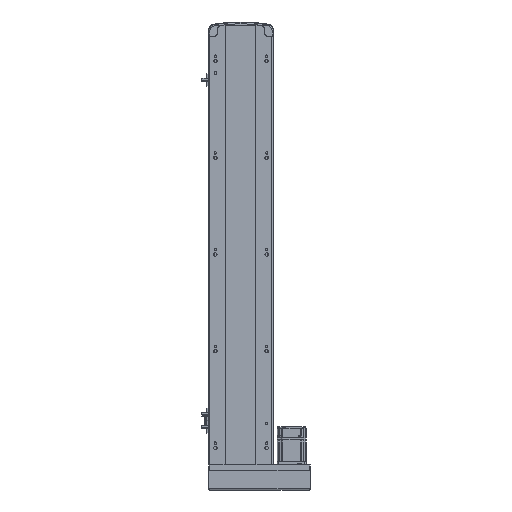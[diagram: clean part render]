
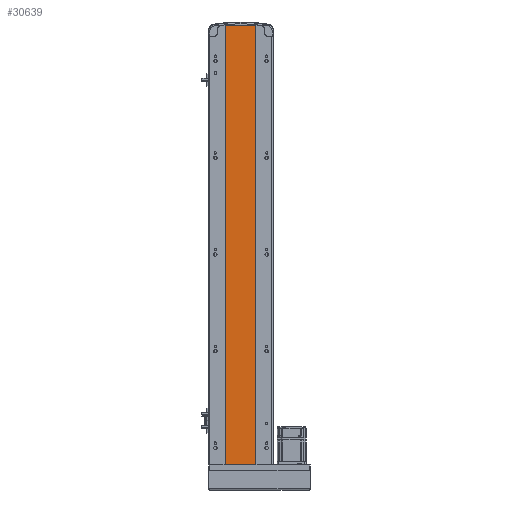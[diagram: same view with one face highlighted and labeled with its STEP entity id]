
A CAD part, front view. The second image highlights one B-rep face of the part: STEP entity #30639.
In plain terms, the highlighted planar face has unit normal (0, -1, 0).
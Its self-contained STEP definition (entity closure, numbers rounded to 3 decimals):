
#888 = PLANE ( 'NONE',  #48071 ) ;
#5718 = DIRECTION ( 'NONE',  ( 0., 0., -1. ) ) ;
#6333 = ORIENTED_EDGE ( 'NONE', *, *, #47422, .T. ) ;
#7881 = CARTESIAN_POINT ( 'NONE',  ( -32., 1., 909. ) ) ;
#8224 = EDGE_CURVE ( 'NONE', #46837, #37397, #8890, .T. ) ;
#8785 = EDGE_CURVE ( 'NONE', #24167, #37397, #42225, .T. ) ;
#8890 = LINE ( 'NONE', #52208, #11680 ) ;
#9571 = FACE_OUTER_BOUND ( 'NONE', #48554, .T. ) ;
#11291 = CARTESIAN_POINT ( 'NONE',  ( 30., 1., 909. ) ) ;
#11680 = VECTOR ( 'NONE', #20493, 1000. ) ;
#11832 = CARTESIAN_POINT ( 'NONE',  ( 30., 1., 0. ) ) ;
#12821 = LINE ( 'NONE', #22531, #56516 ) ;
#16492 = DIRECTION ( 'NONE',  ( 1., 0., 0. ) ) ;
#20493 = DIRECTION ( 'NONE',  ( 0., 0., -1. ) ) ;
#20701 = VECTOR ( 'NONE', #16492, 1000. ) ;
#22531 = CARTESIAN_POINT ( 'NONE',  ( -32., 1., 909. ) ) ;
#22720 = DIRECTION ( 'NONE',  ( -1., 0., 0. ) ) ;
#24167 = VERTEX_POINT ( 'NONE', #47687 ) ;
#27159 = DIRECTION ( 'NONE',  ( 0., 1., 0. ) ) ;
#27283 = ORIENTED_EDGE ( 'NONE', *, *, #8785, .T. ) ;
#27308 = CARTESIAN_POINT ( 'NONE',  ( -32., 1., 909. ) ) ;
#29854 = DIRECTION ( 'NONE',  ( 1., 0., 0. ) ) ;
#30639 = ADVANCED_FACE ( 'NONE', ( #9571 ), #888, .F. ) ;
#36148 = ORIENTED_EDGE ( 'NONE', *, *, #8224, .F. ) ;
#37397 = VERTEX_POINT ( 'NONE', #11832 ) ;
#42225 = LINE ( 'NONE', #56222, #20701 ) ;
#45157 = CARTESIAN_POINT ( 'NONE',  ( -32., 1., 909. ) ) ;
#46345 = LINE ( 'NONE', #7881, #54601 ) ;
#46837 = VERTEX_POINT ( 'NONE', #11291 ) ;
#47422 = EDGE_CURVE ( 'NONE', #56867, #24167, #12821, .T. ) ;
#47593 = ORIENTED_EDGE ( 'NONE', *, *, #52518, .F. ) ;
#47687 = CARTESIAN_POINT ( 'NONE',  ( -32., 1., 0. ) ) ;
#48071 = AXIS2_PLACEMENT_3D ( 'NONE', #45157, #27159, #22720 ) ;
#48554 = EDGE_LOOP ( 'NONE', ( #27283, #36148, #47593, #6333 ) ) ;
#52208 = CARTESIAN_POINT ( 'NONE',  ( 30., 1., 909. ) ) ;
#52518 = EDGE_CURVE ( 'NONE', #56867, #46837, #46345, .T. ) ;
#54601 = VECTOR ( 'NONE', #29854, 1000. ) ;
#56222 = CARTESIAN_POINT ( 'NONE',  ( -32., 1., 0. ) ) ;
#56516 = VECTOR ( 'NONE', #5718, 1000. ) ;
#56867 = VERTEX_POINT ( 'NONE', #27308 ) ;
